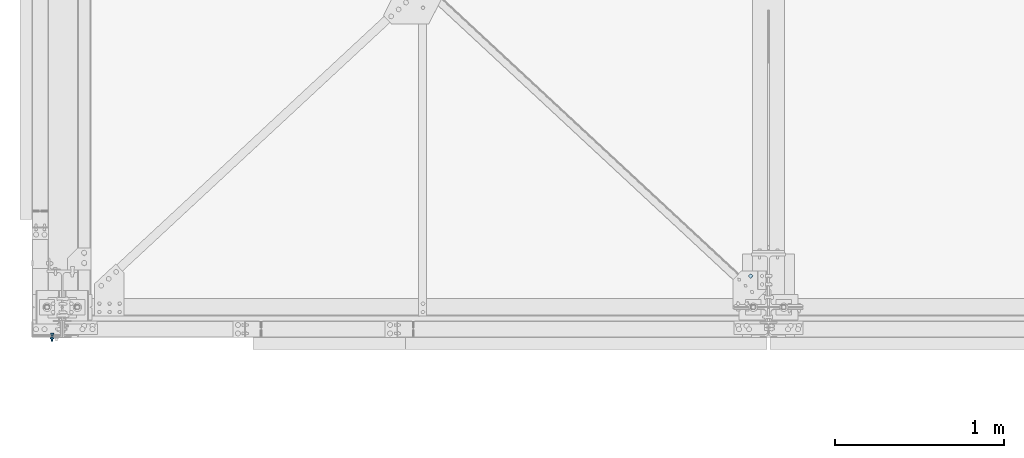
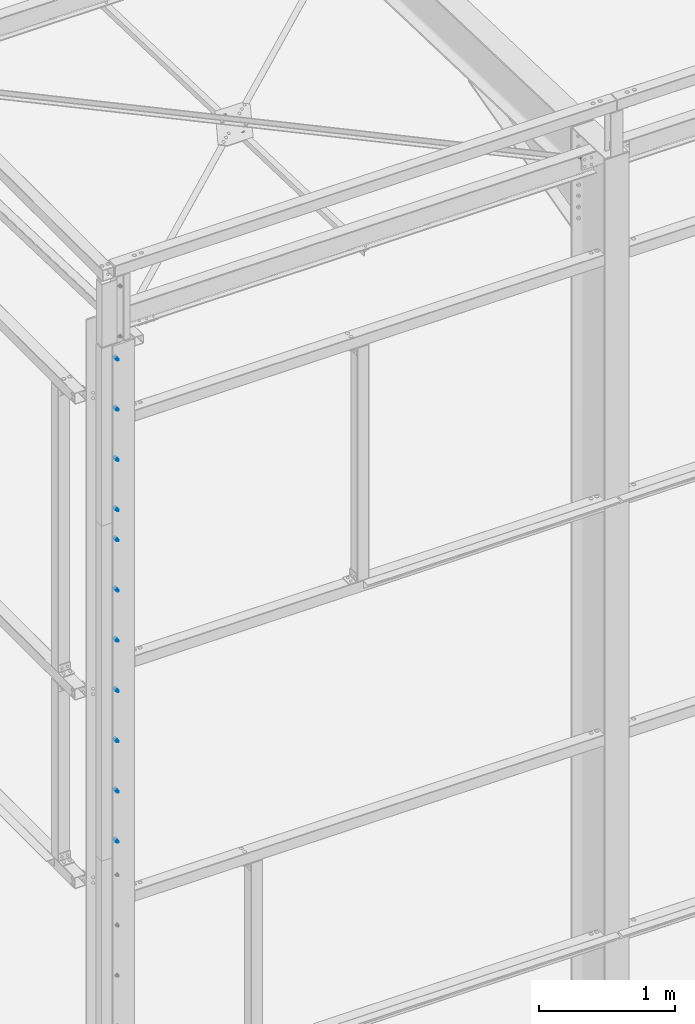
# One storey, part 133 of 362: 2 mechanical fasteners, 1 plate, 1 element without a shape of its own.
"""IFC2X3 building model written with IfcOpenShell, lengths in millimetres."""

from ifc_helpers import new_model, si_unit, frame, origin_with_axes, origin_2d_with_axis, place, context, subcontext, project, spatial, polyline, circle, outline, extrude, source, transform, mapped, material, type_object, element, aggregate, save


model = new_model("IFC2X3")

# Units and contexts
model_context = context("Model", 3, precision=1e-05, world=origin_with_axes())
body_context = subcontext(model_context, "Body", "Model", "MODEL_VIEW")
ifc_project = project(units=[si_unit("LENGTHUNIT", "METRE", prefix="MILLI"), si_unit("AREAUNIT", "SQUARE_METRE"), si_unit("VOLUMEUNIT", "CUBIC_METRE"), si_unit("MASSUNIT", "GRAM", prefix="KILO"), si_unit("TIMEUNIT", "SECOND"), si_unit("PLANEANGLEUNIT", "RADIAN"), si_unit("SOLIDANGLEUNIT", "STERADIAN"), si_unit("THERMODYNAMICTEMPERATUREUNIT", "DEGREE_CELSIUS"), si_unit("LUMINOUSINTENSITYUNIT", "LUMEN")], contexts=[model_context])

# Site, building, storey
site_placement = place(None, origin_with_axes())
site = spatial("IfcSite", under=ifc_project, at=site_placement, Name="Undefined", CompositionType="ELEMENT")
building_placement = place(site_placement, origin_with_axes())
building = spatial("IfcBuilding", under=site, at=building_placement, Name="Undefined", CompositionType="ELEMENT")
storey_placement = place(building_placement, origin_with_axes())
storey = spatial("IfcBuildingStorey", under=building, at=storey_placement, Name="Undefined", CompositionType="ELEMENT", Elevation=0.0)

# Assembly, plate
assembly_placement = place(storey_placement, origin_with_axes())
assembly = element("IfcElementAssembly", 1, at=assembly_placement, inside=storey, Name="Steel Assembly", AssemblyPlace="NOTDEFINED", PredefinedType="RIGID_FRAME")
ifc_material_1 = material(Name="STEEL/S235JR")
plate_type = type_object("IfcPlateType", Name="PL2*20", PredefinedType="NOTDEFINED")
plate_placement = place(assembly_placement, frame((4088.11476723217, 185.288938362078, 7845.07881037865), z_axis=(7.58071938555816e-11, 0.0314107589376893, 0.999506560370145), x_axis=(-0.732433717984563, 0.680502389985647, -0.0213856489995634)))
plate = element("IfcPlate", 2, at=plate_placement, type_object=plate_type, material=ifc_material_1, Name="GOUSSET", ObjectType="PL2*20", context=body_context, shape_type="SweptSolid", body=[
    extrude(outline(polyline([(0.0, 0.0), (19.9999999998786, -3.63797880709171e-12), (19.9999999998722, 19.9999999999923), (1.47401806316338e-08, 20.0000000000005), (0.0, 0.0)])), frame((4.54747350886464e-13, 0.0, -1.00000000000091), z_axis=(0.0, 0.0, 1.0), x_axis=(1.0, 0.0, 0.0)), (0.0, 0.0, 1.0), 2.0),
])
aggregate(assembly, [plate])

# Mechanical fasteners
ifc_material_2 = material(Name="8.8-SB-ZINGUE")
mechanical_fastener_type = type_object("IfcMechanicalFastenerType", Name="Bolt assembly")
shared_shape = source(origin_with_axes(), body_context, "Body", "SweptSolid", [
    extrude(circle(Radius=7.0, at=origin_2d_with_axis()), frame((0.0, -0.100011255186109, 0.0), z_axis=(0.0, 1.0, 0.0), x_axis=(1.0, 0.0, 0.0)), (0.0, 0.0, 1.0), 13.6),
    extrude(circle(Radius=7.0, at=origin_2d_with_axis()), frame((0.0, -4.90461958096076, 0.0), z_axis=(0.0, 1.0, 0.0), x_axis=(1.0, 0.0, 0.0)), (0.0, 0.0, 1.0), 5.0),
    extrude(outline(polyline([(10.39230484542, 0.0), (5.19615242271, 9.00000000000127), (-5.19615242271, 9.00000000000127), (-10.39230484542, 0.0), (-5.19615242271, -9.00000000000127), (5.19615242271, -9.00000000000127), (10.39230484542, 0.0)])), frame((0.0, -12.9246195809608, 0.0), z_axis=(0.0, 1.0, 0.0), x_axis=(1.0, 0.0, 0.0)), (0.0, 0.0, 1.0), 7.92),
    extrude(circle(Radius=6.0, at=origin_2d_with_axis()), frame((0.0, -5.00461958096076, 0.0), z_axis=(0.0, 1.0, 0.0), x_axis=(1.0, 0.0, 0.0)), (0.0, 0.0, 1.0), 40.0),
    extrude(outline(polyline([(11.5008173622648, 0.0), (5.7504086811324, 9.96000000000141), (-5.7504086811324, 9.96000000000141), (-11.5008173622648, 0.0), (-5.7504086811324, -9.96000000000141), (5.7504086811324, -9.96000000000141), (11.5008173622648, 0.0)])), frame((0.0, 13.4999999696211, 0.0), z_axis=(0.0, 1.0, 0.0), x_axis=(1.0, 0.0, 0.0)), (0.0, 0.0, 1.0), 7.92),
])
mechanical_fastener_1_placement = place(storey_placement, frame((-59.9998851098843, -166.499999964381, 7045.00003086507), z_axis=(0.0, 0.0, 1.0), x_axis=(-1.0, 0.0, 0.0)))
element("IfcMechanicalFastener", 3, at=mechanical_fastener_1_placement, inside=storey, type_object=mechanical_fastener_type, material=ifc_material_2, Name="Bolt assembly", NominalDiameter=12.0, NominalLength=40.0, context=body_context, shape_type="MappedRepresentation", body=[
    mapped(shared_shape, transform((0.0, 0.0, -675.0))),
    mapped(shared_shape, transform((0.0, 0.0, -225.0))),
    mapped(shared_shape, transform((0.0, 0.0, 225.0))),
    mapped(shared_shape, transform((0.0, 0.0, 675.0))),
])
mechanical_fastener_2_placement = place(storey_placement, frame((-59.9998851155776, -166.499999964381, 4750.0000154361), z_axis=(0.0, 0.0, 1.0), x_axis=(-1.0, 0.0, 0.0)))
element("IfcMechanicalFastener", 4, at=mechanical_fastener_2_placement, inside=storey, type_object=mechanical_fastener_type, material=ifc_material_2, Name="Bolt assembly", NominalDiameter=12.0, NominalLength=40.0, context=body_context, shape_type="MappedRepresentation", body=[
    mapped(shared_shape, transform((0.0, 0.0, -1350.0))),
    mapped(shared_shape, transform((0.0, 0.0, -900.0))),
    mapped(shared_shape, transform((0.0, 0.0, -450.0))),
    mapped(shared_shape, transform((0.0, 0.0, 0.0))),
    mapped(shared_shape, transform((0.0, 0.0, 450.0))),
    mapped(shared_shape, transform((0.0, 0.0, 900.0))),
    mapped(shared_shape, transform((0.0, 0.0, 1350.0))),
])

save(model, "model.ifc")
